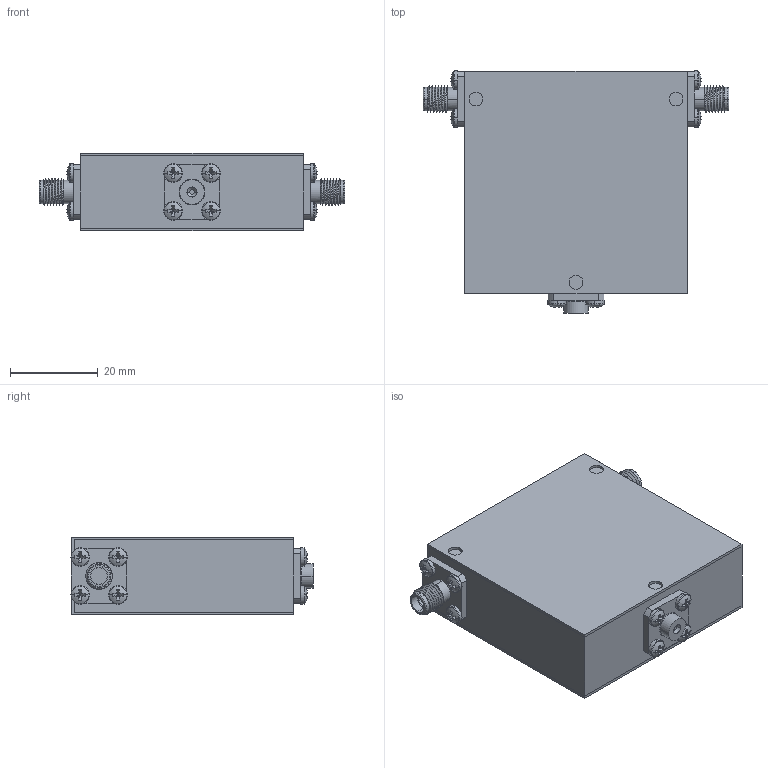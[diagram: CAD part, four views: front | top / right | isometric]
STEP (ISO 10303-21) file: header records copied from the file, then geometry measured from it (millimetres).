
FILE_DESCRIPTION (( 'STEP AP214' ), '1' );
FILE_NAME ('D3I1727 2.0x2.0x0.7 FF.step', '2021-12-01T20:56:07', ( '' ), ( '' ), 'SwSTEP 2.0', 'SolidWorks 2016', '' );
FILE_SCHEMA (( 'AUTOMOTIVE_DESIGN' ));
Length unit declared in the file: inch
Products named in the file (6): D3I1727 2.0x2.0x0.7 FF; pan cross head_ai_CR-PHMS 0.086-56x0.125x0.125-N; D3I1727 2.0x2.0x0.7; D3I1727 2.0x1.975x0.65; 030013-1A Same Base thickness as connectors; Delta SMA-Female 0.500 flange Threaded
Assembly tree (17 placements, depth 2):
  D3I1727 2.0x2.0x0.7 FF
    D3I1727 2.0x1.975x0.65
    D3I1727 2.0x2.0x0.7
    Delta SMA-Female 0.500 flange Threaded  x2
    030013-1A Same Base thickness as connectors
    pan cross head_ai_CR-PHMS 0.086-56x0.125x0.125-N  x12
Bounding box: 69.85 x 55.33 x 17.78 mm (x, y, z)
Volume: 47043.4 mm3; surface area: 23254.4 mm2
Topology: 17 solids, 17 shells, 414 faces, 942 edges, 582 vertices
Faces by surface type: plane 228, cylinder 122, torus 30, sphere 24, bspline 6, cone 4
Entity records: 4765 total; most frequent: CARTESIAN_POINT 1369, DIRECTION 717, ORIENTED_EDGE 594, EDGE_CURVE 297, AXIS2_PLACEMENT_3D 289, VERTEX_POINT 191, EDGE_LOOP 160, CIRCLE 150
